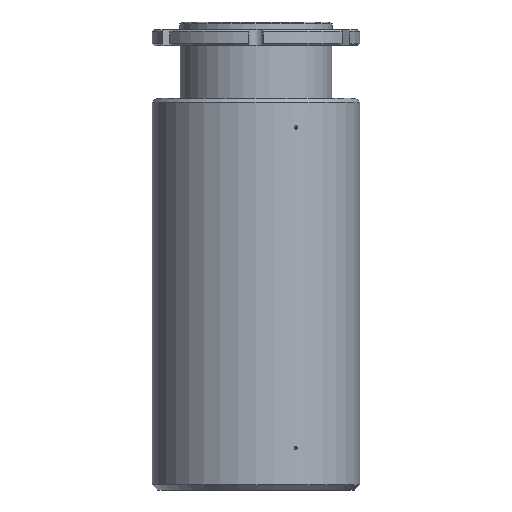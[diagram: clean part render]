
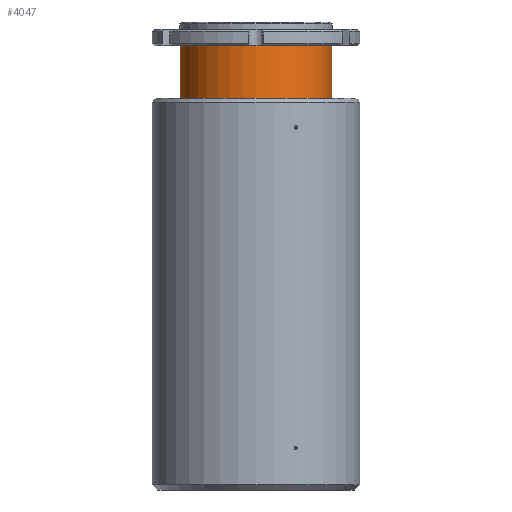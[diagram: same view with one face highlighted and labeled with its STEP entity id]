
A CAD part, front view. The second image highlights one B-rep face of the part: STEP entity #4047.
In plain terms, the highlighted cylindrical face has radius 45.72 mm (diameter 91.44 mm), a partial arc.
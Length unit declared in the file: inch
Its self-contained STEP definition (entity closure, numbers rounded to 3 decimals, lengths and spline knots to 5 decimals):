
#351 = LINE ( 'NONE', #352, #1660 ) ;
#352 = CARTESIAN_POINT ( 'NONE',  ( 1.8, 0., 0. ) ) ;
#362 = DIRECTION ( 'NONE',  ( 0., 0., 1. ) ) ;
#1152 = VECTOR ( 'NONE', #2515, 39.37008 ) ;
#1660 = VECTOR ( 'NONE', #362, 39.37008 ) ;
#2428 = AXIS2_PLACEMENT_3D ( 'NONE', #5275, #5276, #5277 ) ;
#2453 = CIRCLE ( 'NONE', #2428, 1.8 ) ;
#2471 = LINE ( 'NONE', #2513, #1152 ) ;
#2513 = CARTESIAN_POINT ( 'NONE',  ( -1.8, 0., 0. ) ) ;
#2515 = DIRECTION ( 'NONE',  ( 0., 0., 1. ) ) ;
#2884 = CARTESIAN_POINT ( 'NONE',  ( 1.8, 0., -0.562 ) ) ;
#2885 = CARTESIAN_POINT ( 'NONE',  ( -1.8, 0., -0.562 ) ) ;
#3230 = CARTESIAN_POINT ( 'NONE',  ( -1.8, 0., -1.81205 ) ) ;
#3254 = CARTESIAN_POINT ( 'NONE',  ( 1.8, 0., -1.81205 ) ) ;
#3685 = EDGE_CURVE ( 'NONE', #4656, #4655, #2453, .T. ) ;
#3770 = EDGE_CURVE ( 'NONE', #8194, #8623, #4635, .T. ) ;
#3887 = EDGE_CURVE ( 'NONE', #8623, #4655, #351, .T. ) ;
#4047 = ADVANCED_FACE ( 'NONE', ( #10425 ), #10424, .T. ) ;
#4573 = EDGE_CURVE ( 'NONE', #8194, #4656, #2471, .T. ) ;
#4633 = AXIS2_PLACEMENT_3D ( 'NONE', #5727, #5728, #5729 ) ;
#4635 = CIRCLE ( 'NONE', #4633, 1.8 ) ;
#4655 = VERTEX_POINT ( 'NONE', #2884 ) ;
#4656 = VERTEX_POINT ( 'NONE', #2885 ) ;
#5275 = CARTESIAN_POINT ( 'NONE',  ( 0., 0., -0.562 ) ) ;
#5276 = DIRECTION ( 'NONE',  ( 0., 0., 1. ) ) ;
#5277 = DIRECTION ( 'NONE',  ( 1., 0., 0. ) ) ;
#5727 = CARTESIAN_POINT ( 'NONE',  ( 0., 0., -1.81205 ) ) ;
#5728 = DIRECTION ( 'NONE',  ( 0., 0., 1. ) ) ;
#5729 = DIRECTION ( 'NONE',  ( 1., 0., 0. ) ) ;
#8194 = VERTEX_POINT ( 'NONE', #3230 ) ;
#8623 = VERTEX_POINT ( 'NONE', #3254 ) ;
#8921 = ORIENTED_EDGE ( 'NONE', *, *, #3685, .F. ) ;
#8922 = ORIENTED_EDGE ( 'NONE', *, *, #3770, .T. ) ;
#8923 = ORIENTED_EDGE ( 'NONE', *, *, #3887, .T. ) ;
#8925 = ORIENTED_EDGE ( 'NONE', *, *, #4573, .F. ) ;
#9610 = EDGE_LOOP ( 'NONE', ( #8925, #8922, #8923, #8921 ) ) ;
#10414 = DIRECTION ( 'NONE',  ( 0., 0., 1. ) ) ;
#10418 = CARTESIAN_POINT ( 'NONE',  ( 0., 0., 0. ) ) ;
#10424 = CYLINDRICAL_SURFACE ( 'NONE', #11150, 1.8 ) ;
#10425 = FACE_OUTER_BOUND ( 'NONE', #9610, .T. ) ;
#10427 = DIRECTION ( 'NONE',  ( 1., 0., 0. ) ) ;
#11150 = AXIS2_PLACEMENT_3D ( 'NONE', #10418, #10414, #10427 ) ;
